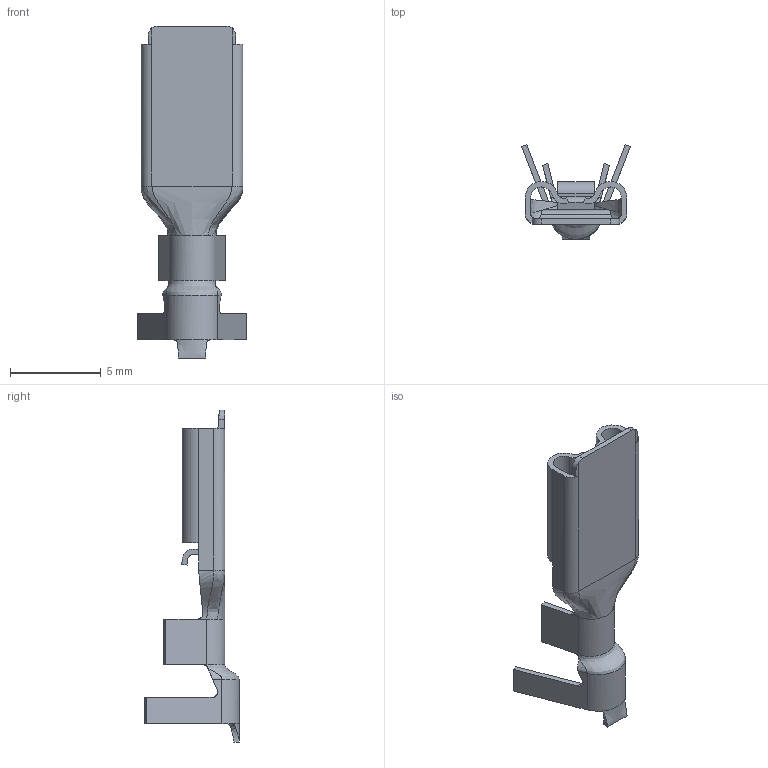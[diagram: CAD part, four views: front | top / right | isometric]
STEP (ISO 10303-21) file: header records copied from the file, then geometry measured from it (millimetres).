
FILE_DESCRIPTION((''),'2;1');
FILE_NAME('C-173724-1-W-3D','2024-05-27T16:23:18',('JSB0628'),(''),'CREO PARAMETRIC BY PTC INC, 2018050','CREO PARAMETRIC BY PTC INC, 2018050','');
FILE_SCHEMA(('CONFIG_CONTROL_DESIGN'));
Length unit declared in the file: millimetre
Products named in the file (1): C-173724-1-W-3D
Bounding box: 5.99 x 5.2 x 18.25 mm (x, y, z)
Volume: 61.6 mm3; surface area: 371.9 mm2
Topology: 1 solids, 1 shells, 117 faces, 319 edges, 203 vertices
Faces by surface type: plane 55, cylinder 34, bspline 28
Entity records: 4718 total; most frequent: CARTESIAN_POINT 1879, ORIENTED_EDGE 638, DIRECTION 504, EDGE_CURVE 319, VERTEX_POINT 203, VECTOR 172, LINE 172, AXIS2_PLACEMENT_3D 166
